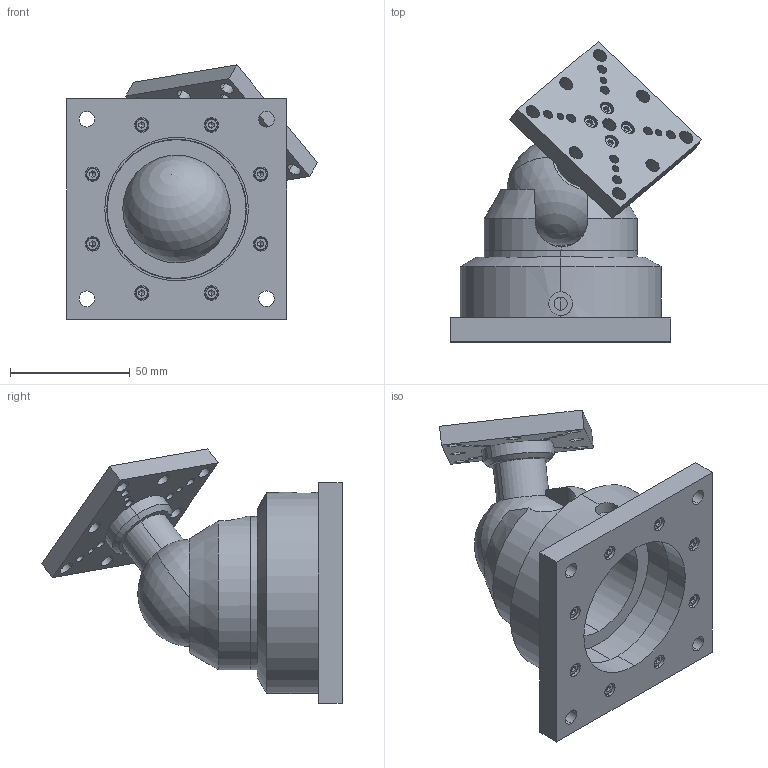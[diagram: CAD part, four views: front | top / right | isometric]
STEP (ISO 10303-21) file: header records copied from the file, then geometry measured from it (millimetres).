
FILE_DESCRIPTION (( 'STEP AP214' ), '1' );
FILE_NAME ('GCM-1112M-三维外形图-20161206.STEP', '2016-12-08T07:05:08', ( 'd' ), ( '' ), 'SwSTEP 2.0', 'SolidWorks 2012', '' );
FILE_SCHEMA (( 'AUTOMOTIVE_DESIGN' ));
Length unit declared in the file: millimetre
Products named in the file (1): GCM-1112M-三维外形图-20161206
Bounding box: 104.85 x 125.49 x 106.22 mm (x, y, z)
Surface area: 64447.4 mm2 (no closed solid volume)
Topology: 0 solids, 20 shells, 333 faces, 987 edges, 624 vertices
Faces by surface type: plane 127, cylinder 109, cone 71, torus 24, sphere 2
Entity records: 14953 total; most frequent: CARTESIAN_POINT 2165, DIRECTION 2069, ORIENTED_EDGE 1653, EDGE_CURVE 958, AXIS2_PLACEMENT_3D 791, VERTEX_POINT 621, VECTOR 487, LINE 487
